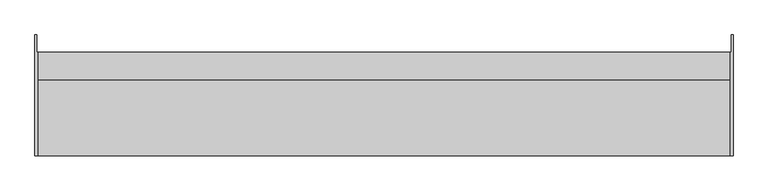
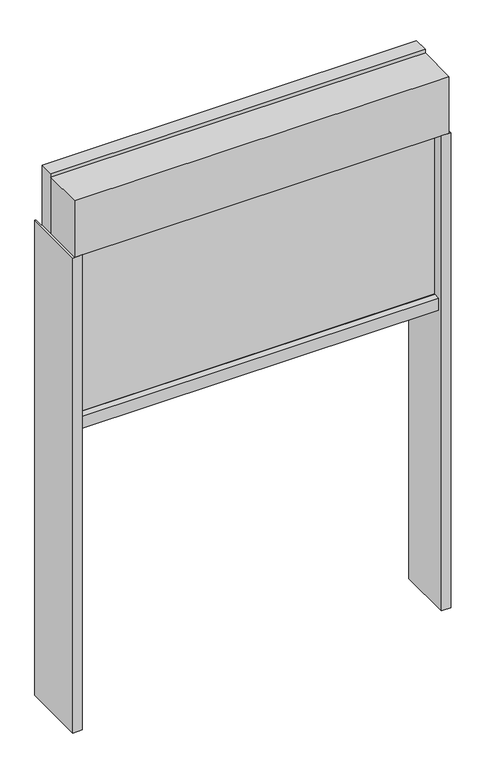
"""IFC4 building model written with IfcOpenShell, lengths in millimetres: proxy geometry, Renson_Fixscreen_Minimal_Single : Recessed - Front of the window - Medium - Access downwards - Fabric away from the window - Minimalistic window."""

from ifc_helpers import new_model, si_unit, point, frame, frame_2d, origin, origin_with_axes, place, context, project, spatial, polyline, circle_curve, trimmed, segment, composite_curve, outline, extrude, source, transform, mapped, element, save


def generic_models_f3d9dba3(model_context):
    return source(origin(), model_context, "Body", "SweptSolid", [
        extrude(outline(polyline([(480.0, 543.5958591), (480.0, 693.5958591), (502.0, 693.5958591), (502.0, 718.5959909), (505.0, 718.5959909), (505.0, 543.5958591), (480.0, 543.5958591)])), origin_with_axes(), (0.0, 0.0, 1.0), 1340.0),
        extrude(outline(polyline([(-480.0, 543.5958591), (-505.0, 543.5958591), (-505.0, 718.5959909), (-502.0, 718.5959909), (-502.0, 693.5959909), (-480.0, 693.5959909), (-480.0, 543.5958591)])), origin_with_axes(), (0.0, 0.0, 1.0), 1340.0),
        extrude(outline(composite_curve([segment(polyline([(597.7950484, 840.0), (557.2951519, 840.0), (557.2951519, 874.1156826), (574.4192614, 875.0000198)]), True, "CONTINUOUS"), segment(trimmed(circle_curve(frame_2d((574.4450484, 874.5006852)), 0.5), [point((574.4192614, 875.0000198))], [point((574.9450484, 874.5006852))], False, "CARTESIAN"), True, "CONTINUOUS"), segment(polyline([(574.9450484, 874.5006852), (574.9450484, 873.5367989), (573.6799101, 873.5367989), (574.4202136, 869.0119223)]), True, "CONTINUOUS"), segment(trimmed(circle_curve(frame_2d((534.9450484, 862.5534911)), 40.0), [point((574.4202136, 869.0119223))], [point((574.9450484, 862.5534911))], False, "CARTESIAN"), True, "CONTINUOUS"), segment(polyline([(574.9450484, 862.5534911), (574.9450484, 854.5006852)]), True, "CONTINUOUS"), segment(trimmed(circle_curve(frame_2d((576.9450484, 854.5006852)), 2.0), [point((574.9450484, 854.5006852))], [point((576.9450484, 852.5006852))], True, "CARTESIAN"), True, "CONTINUOUS"), segment(polyline([(576.9450484, 852.5006852), (578.6450484, 852.5006852)]), True, "CONTINUOUS"), segment(trimmed(circle_curve(frame_2d((578.6450484, 854.5006852)), 2.0), [point((578.6450484, 852.5006852))], [point((580.6450484, 854.5006852))], True, "CARTESIAN"), True, "CONTINUOUS"), segment(polyline([(580.6450484, 854.5006852), (580.6450484, 862.5534911)]), True, "CONTINUOUS"), segment(trimmed(circle_curve(frame_2d((620.6450484, 862.5534911)), 40.0), [point((580.6450484, 862.5534911))], [point((581.1698832, 869.0119223))], False, "CARTESIAN"), True, "CONTINUOUS"), segment(polyline([(581.1698832, 869.0119223), (581.9101868, 873.5367989), (580.6450484, 873.5367989), (580.6450484, 874.5006852)]), True, "CONTINUOUS"), segment(trimmed(circle_curve(frame_2d((581.1450484, 874.5006852)), 0.5), [point((580.6450484, 874.5006852))], [point((581.1716087, 874.9999793))], False, "CARTESIAN"), True, "CONTINUOUS"), segment(polyline([(581.1716087, 874.9999793), (597.7950484, 874.1156826), (597.7950484, 840.0)]), True, "CONTINUOUS")], self_intersect=False)), frame((-480.0, 0.0, 0.0), z_axis=(1.0, 0.0, 0.0), x_axis=(0.0, 1.0, 0.0)), (0.0, 0.0, 1.0), 960.0),
        extrude(outline(polyline([(-480.0, 579.2950484), (480.0, 579.2950484), (480.0, 576.2950484), (-480.0, 576.2950484), (-480.0, 579.2950484)])), frame((0.0, 0.0, 852.5006852), z_axis=(0.0, 0.0, 1.0), x_axis=(1.0, 0.0, 0.0)), (0.0, 0.0, 1.0), 487.4993148),
        extrude(outline(polyline([(-500.0, 693.5959909), (500.0, 693.5959909), (500.0, 653.8959909), (-500.0, 653.8959909), (-500.0, 693.5959909)])), frame((0.0, 0.0, 1340.0), z_axis=(0.0, 0.0, 1.0), x_axis=(1.0, 0.0, 0.0)), (0.0, 0.0, 1.0), 169.75),
        extrude(outline(polyline([(-500.0, 543.5959909), (-500.0, 653.5959909), (500.0, 653.5959909), (500.0, 543.5959909), (-500.0, 543.5959909)])), frame((0.0, 0.0, 1340.0), z_axis=(0.0, 0.0, 1.0), x_axis=(1.0, 0.0, 0.0)), (0.0, 0.0, 1.0), 160.0),
    ])


if __name__ == "__main__":
    model = new_model("IFC4")
    model_context = context("Model", 3, world=origin())
    ifc_project = project(units=[si_unit("LENGTHUNIT", "METRE", prefix="MILLI")], contexts=[model_context])
    site = spatial("IfcSite", under=ifc_project)
    building = spatial("IfcBuilding", under=site)
    placement = place(None, origin())
    generic_models_shape = generic_models_f3d9dba3(model_context)
    element("IfcBuildingElementProxy", 1, Name="Renson_Fixscreen_Minimal_Single : Recessed - Front of the window - Medium - Access downwards - Fabric away from the window - Minimalistic window", ObjectType="Renson_Fixscreen_Minimal_Single : Recessed - Front of the window - Medium - Access downwards - Fabric away from the window - Minimalistic window", at=placement, inside=building, context=model_context, shape_type="MappedRepresentation", body=[
        mapped(generic_models_shape, transform((0.0, 0.0, 0.0), x_axis=(1.0, 0.0, 0.0), y_axis=(0.0, 1.0, 0.0), z_axis=(0.0, 0.0, 1.0))),
    ])
    save(model, "model.ifc")
